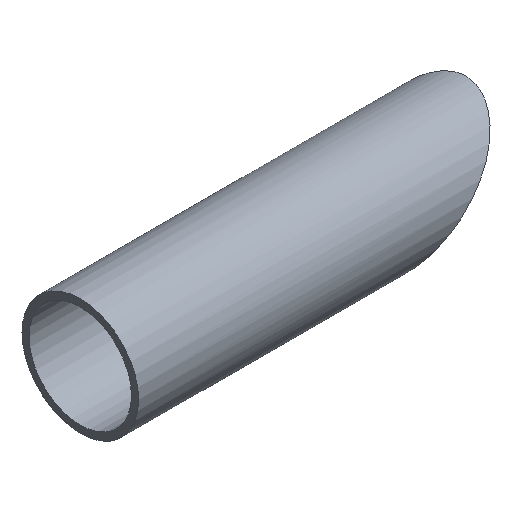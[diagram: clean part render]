
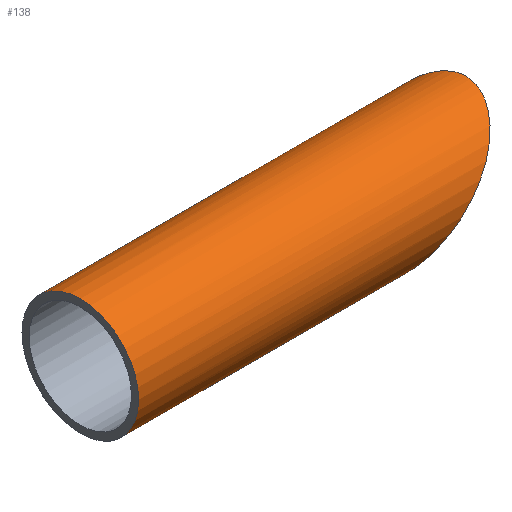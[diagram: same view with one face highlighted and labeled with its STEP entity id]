
A CAD part, isometric view. The second image highlights one B-rep face of the part: STEP entity #138.
In plain terms, the highlighted cylindrical face has radius 21.2 mm (diameter 42.4 mm), a full revolution.
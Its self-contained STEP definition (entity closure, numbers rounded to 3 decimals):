
#64=ELLIPSE('',#130,29.981,21.2);
#66=ORIENTED_EDGE('',*,*,#80,.T.);
#67=ORIENTED_EDGE('',*,*,#81,.T.);
#74=CIRCLE('',#129,21.2);
#76=VERTEX_POINT('',#117);
#77=VERTEX_POINT('',#119);
#80=EDGE_CURVE('',#76,#76,#74,.T.);
#81=EDGE_CURVE('',#77,#77,#64,.T.);
#84=EDGE_LOOP('',(#66));
#85=EDGE_LOOP('',(#67));
#92=FACE_BOUND('',#84,.T.);
#93=FACE_BOUND('',#85,.T.);
#100=DIRECTION('',(1.,0.,0.));
#101=DIRECTION('',(0.,1.,0.));
#102=DIRECTION('',(1.,0.,0.));
#103=DIRECTION('',(0.,21.2,0.));
#104=DIRECTION('',(-0.707,0.,0.707));
#105=DIRECTION('',(-0.707,0.,-0.707));
#116=CARTESIAN_POINT('',(0.,0.,0.));
#117=CARTESIAN_POINT('',(-500.,21.2,0.));
#118=CARTESIAN_POINT('',(-500.,0.,0.));
#119=CARTESIAN_POINT('',(-359.837,1.247,21.163));
#120=CARTESIAN_POINT('',(-381.,0.,0.));
#128=AXIS2_PLACEMENT_3D('',#116,#100,#101);
#129=AXIS2_PLACEMENT_3D('',#118,#102,#103);
#130=AXIS2_PLACEMENT_3D('',#120,#104,#105);
#136=CYLINDRICAL_SURFACE('',#128,21.2);
#138=ADVANCED_FACE('',(#92,#93),#136,.T.);
